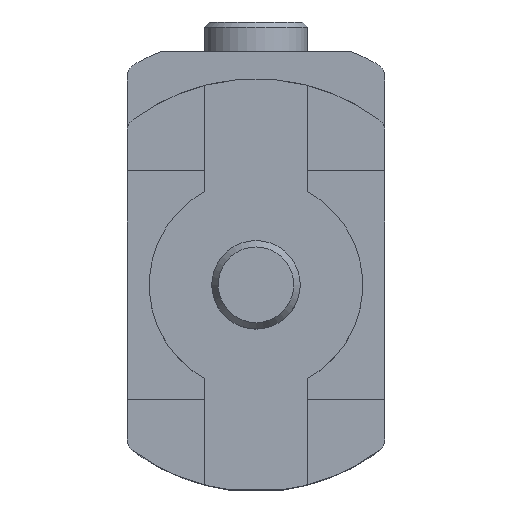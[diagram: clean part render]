
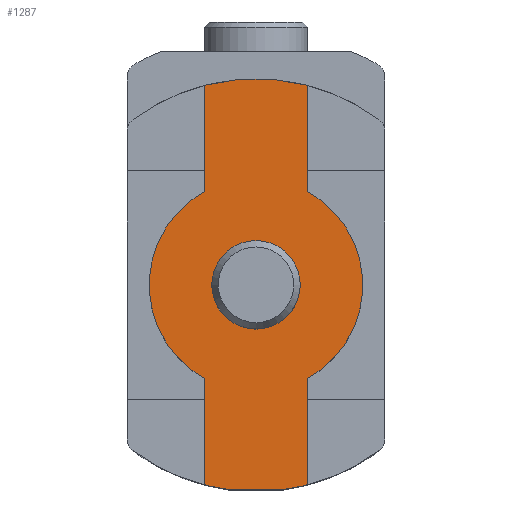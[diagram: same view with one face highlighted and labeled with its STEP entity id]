
A CAD part, top view. The second image highlights one B-rep face of the part: STEP entity #1287.
In plain terms, the highlighted planar face has unit normal (0, 0, 1).
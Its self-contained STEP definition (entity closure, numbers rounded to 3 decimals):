
#14 = AXIS2_PLACEMENT_3D ( 'NONE', #836, #1924, #680 ) ;
#39 = VERTEX_POINT ( 'NONE', #957 ) ;
#46 = ORIENTED_EDGE ( 'NONE', *, *, #827, .T. ) ;
#106 = FACE_BOUND ( 'NONE', #150, .T. ) ;
#113 = CARTESIAN_POINT ( 'NONE',  ( 7., 12.698, 45.5 ) ) ;
#130 = ORIENTED_EDGE ( 'NONE', *, *, #1163, .T. ) ;
#139 = CARTESIAN_POINT ( 'NONE',  ( 0., 0., 45.5 ) ) ;
#150 = EDGE_LOOP ( 'NONE', ( #1418 ) ) ;
#152 = EDGE_CURVE ( 'NONE', #679, #418, #1329, .T. ) ;
#236 = CARTESIAN_POINT ( 'NONE',  ( 0., 0., 45.5 ) ) ;
#249 = FACE_OUTER_BOUND ( 'NONE', #1318, .T. ) ;
#257 = DIRECTION ( 'NONE',  ( 1., 0., 0. ) ) ;
#313 = DIRECTION ( 'NONE',  ( 1., 0., 0. ) ) ;
#324 = EDGE_CURVE ( 'NONE', #1684, #995, #1479, .T. ) ;
#329 = VECTOR ( 'NONE', #1905, 1000. ) ;
#338 = CARTESIAN_POINT ( 'NONE',  ( -7., 12.698, 45.5 ) ) ;
#373 = CARTESIAN_POINT ( 'NONE',  ( -7., -27.111, 45.5 ) ) ;
#418 = VERTEX_POINT ( 'NONE', #1075 ) ;
#424 = CARTESIAN_POINT ( 'NONE',  ( 7., -27.111, 45.5 ) ) ;
#425 = DIRECTION ( 'NONE',  ( 0., 0., 1. ) ) ;
#434 = EDGE_CURVE ( 'NONE', #815, #1183, #1442, .T. ) ;
#451 = CARTESIAN_POINT ( 'NONE',  ( 0., 0., 45.5 ) ) ;
#455 = CIRCLE ( 'NONE', #14, 14.5 ) ;
#463 = ORIENTED_EDGE ( 'NONE', *, *, #324, .T. ) ;
#474 = ORIENTED_EDGE ( 'NONE', *, *, #936, .T. ) ;
#537 = LINE ( 'NONE', #373, #1825 ) ;
#538 = VERTEX_POINT ( 'NONE', #1438 ) ;
#551 = VERTEX_POINT ( 'NONE', #974 ) ;
#591 = PLANE ( 'NONE',  #1271 ) ;
#600 = CIRCLE ( 'NONE', #1717, 5. ) ;
#679 = VERTEX_POINT ( 'NONE', #424 ) ;
#680 = DIRECTION ( 'NONE',  ( 1., 0., 0. ) ) ;
#745 = CARTESIAN_POINT ( 'NONE',  ( -7., 12.698, 45.5 ) ) ;
#771 = CARTESIAN_POINT ( 'NONE',  ( -3.733, -27.75, 45.5 ) ) ;
#790 = ORIENTED_EDGE ( 'NONE', *, *, #1508, .T. ) ;
#805 = CARTESIAN_POINT ( 'NONE',  ( 3.733, -27.75, 45.5 ) ) ;
#815 = VERTEX_POINT ( 'NONE', #771 ) ;
#827 = EDGE_CURVE ( 'NONE', #995, #538, #1760, .T. ) ;
#831 = CIRCLE ( 'NONE', #889, 28. ) ;
#836 = CARTESIAN_POINT ( 'NONE',  ( 0., 0., 45.5 ) ) ;
#844 = AXIS2_PLACEMENT_3D ( 'NONE', #451, #1382, #313 ) ;
#863 = CARTESIAN_POINT ( 'NONE',  ( 7., -27.111, 45.5 ) ) ;
#889 = AXIS2_PLACEMENT_3D ( 'NONE', #139, #1351, #1689 ) ;
#933 = DIRECTION ( 'NONE',  ( 0., -1., 0. ) ) ;
#936 = EDGE_CURVE ( 'NONE', #1393, #551, #455, .T. ) ;
#950 = CARTESIAN_POINT ( 'NONE',  ( 0., 0., 45.5 ) ) ;
#957 = CARTESIAN_POINT ( 'NONE',  ( 5., 0., 45.5 ) ) ;
#974 = CARTESIAN_POINT ( 'NONE',  ( -7., -12.698, 45.5 ) ) ;
#977 = VECTOR ( 'NONE', #1666, 1000. ) ;
#986 = VECTOR ( 'NONE', #933, 1000. ) ;
#995 = VERTEX_POINT ( 'NONE', #1761 ) ;
#1023 = DIRECTION ( 'NONE',  ( 1., 0., 0. ) ) ;
#1075 = CARTESIAN_POINT ( 'NONE',  ( 7., -12.698, 45.5 ) ) ;
#1086 = EDGE_CURVE ( 'NONE', #538, #1393, #1847, .T. ) ;
#1160 = AXIS2_PLACEMENT_3D ( 'NONE', #236, #425, #1023 ) ;
#1163 = EDGE_CURVE ( 'NONE', #551, #1221, #537, .T. ) ;
#1183 = VERTEX_POINT ( 'NONE', #805 ) ;
#1188 = DIRECTION ( 'NONE',  ( 0., 0., 1. ) ) ;
#1221 = VERTEX_POINT ( 'NONE', #1276 ) ;
#1249 = ORIENTED_EDGE ( 'NONE', *, *, #1086, .T. ) ;
#1271 = AXIS2_PLACEMENT_3D ( 'NONE', #1649, #1188, #257 ) ;
#1276 = CARTESIAN_POINT ( 'NONE',  ( -7., -27.111, 45.5 ) ) ;
#1277 = ORIENTED_EDGE ( 'NONE', *, *, #434, .T. ) ;
#1287 = ADVANCED_FACE ( 'NONE', ( #106, #249 ), #591, .T. ) ;
#1305 = CARTESIAN_POINT ( 'NONE',  ( -3.733, -27.75, 45.5 ) ) ;
#1318 = EDGE_LOOP ( 'NONE', ( #474, #130, #1599, #1277, #1778, #1344, #790, #463, #46, #1249 ) ) ;
#1324 = DIRECTION ( 'NONE',  ( 0., 1., 0. ) ) ;
#1329 = LINE ( 'NONE', #863, #977 ) ;
#1344 = ORIENTED_EDGE ( 'NONE', *, *, #152, .T. ) ;
#1351 = DIRECTION ( 'NONE',  ( 0., 0., 1. ) ) ;
#1382 = DIRECTION ( 'NONE',  ( 0., 0., 1. ) ) ;
#1393 = VERTEX_POINT ( 'NONE', #745 ) ;
#1414 = DIRECTION ( 'NONE',  ( 0., 0., 1. ) ) ;
#1418 = ORIENTED_EDGE ( 'NONE', *, *, #1673, .F. ) ;
#1438 = CARTESIAN_POINT ( 'NONE',  ( -7., 27.111, 45.5 ) ) ;
#1442 = LINE ( 'NONE', #1305, #329 ) ;
#1454 = EDGE_CURVE ( 'NONE', #1183, #679, #831, .T. ) ;
#1479 = LINE ( 'NONE', #113, #1533 ) ;
#1508 = EDGE_CURVE ( 'NONE', #418, #1684, #1651, .T. ) ;
#1533 = VECTOR ( 'NONE', #1324, 1000. ) ;
#1562 = DIRECTION ( 'NONE',  ( 0., 0., 1. ) ) ;
#1599 = ORIENTED_EDGE ( 'NONE', *, *, #1720, .T. ) ;
#1649 = CARTESIAN_POINT ( 'NONE',  ( 0., 0., 45.5 ) ) ;
#1651 = CIRCLE ( 'NONE', #844, 14.5 ) ;
#1666 = DIRECTION ( 'NONE',  ( 0., 1., 0. ) ) ;
#1673 = EDGE_CURVE ( 'NONE', #39, #39, #600, .T. ) ;
#1684 = VERTEX_POINT ( 'NONE', #1735 ) ;
#1689 = DIRECTION ( 'NONE',  ( 1., 0., 0. ) ) ;
#1709 = DIRECTION ( 'NONE',  ( 1., 0., 0. ) ) ;
#1717 = AXIS2_PLACEMENT_3D ( 'NONE', #950, #1562, #1727 ) ;
#1720 = EDGE_CURVE ( 'NONE', #1221, #815, #1839, .T. ) ;
#1723 = DIRECTION ( 'NONE',  ( 0., -1., 0. ) ) ;
#1725 = CARTESIAN_POINT ( 'NONE',  ( 0., 0., 45.5 ) ) ;
#1727 = DIRECTION ( 'NONE',  ( 1., 0., 0. ) ) ;
#1735 = CARTESIAN_POINT ( 'NONE',  ( 7., 12.698, 45.5 ) ) ;
#1760 = CIRCLE ( 'NONE', #1823, 28. ) ;
#1761 = CARTESIAN_POINT ( 'NONE',  ( 7., 27.111, 45.5 ) ) ;
#1778 = ORIENTED_EDGE ( 'NONE', *, *, #1454, .T. ) ;
#1823 = AXIS2_PLACEMENT_3D ( 'NONE', #1725, #1414, #1709 ) ;
#1825 = VECTOR ( 'NONE', #1723, 1000. ) ;
#1839 = CIRCLE ( 'NONE', #1160, 28. ) ;
#1847 = LINE ( 'NONE', #338, #986 ) ;
#1905 = DIRECTION ( 'NONE',  ( 1., 0., 0. ) ) ;
#1924 = DIRECTION ( 'NONE',  ( 0., 0., 1. ) ) ;
